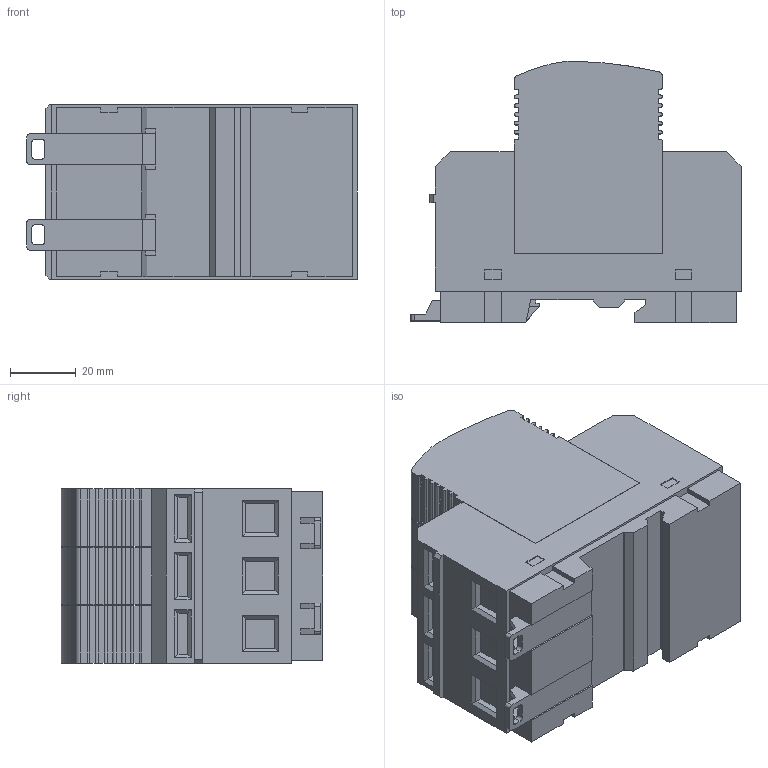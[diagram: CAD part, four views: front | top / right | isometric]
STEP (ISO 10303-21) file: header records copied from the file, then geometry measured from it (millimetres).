
FILE_DESCRIPTION(/* description */ (''),/* implementation_level */ '2;1');
FILE_NAME(/* name */ 'K:\PROJEKTY ROZPRACOVANÉ\MODELY DO KATALOGU\V-SERIE\3D - STEP\H PV M.stp',/* time_stamp */ '2021-06-10T13:39:16+02:00',/* author */ ('miko'),/* organization */ (''),/* preprocessor_version */ 'ST-DEVELOPER v18.1',/* originating_system */ 'Autodesk Inventor 2022',/* authorisation */ '');
FILE_SCHEMA (('AUTOMOTIVE_DESIGN { 1 0 10303 214 3 1 1 }'));
Length unit declared in the file: millimetre
Products named in the file (3): H PV M; H PV M_1; DIN 7985 (H) - M6x10-H
Assembly tree (5 placements, depth 2):
  H PV M
    H PV M_1
    DIN 7985 (H) - M6x10-H  x4
Bounding box: 100.5 x 79.45 x 53 mm (x, y, z)
Volume: 300046.2 mm3; surface area: 53488.3 mm2
Topology: 5 solids, 5 shells, 585 faces, 1582 edges, 1032 vertices
Faces by surface type: plane 432, cylinder 81, cone 64, sphere 4, torus 4
Full cylindrical faces by diameter (mm): 5.5 x4, 6 x4, 7.5 x4
Entity records: 14918 total; most frequent: CARTESIAN_POINT 2622, ORIENTED_EDGE 2540, DIRECTION 2409, EDGE_CURVE 1270, LINE 1049, VECTOR 1049, VERTEX_POINT 825, AXIS2_PLACEMENT_3D 680
